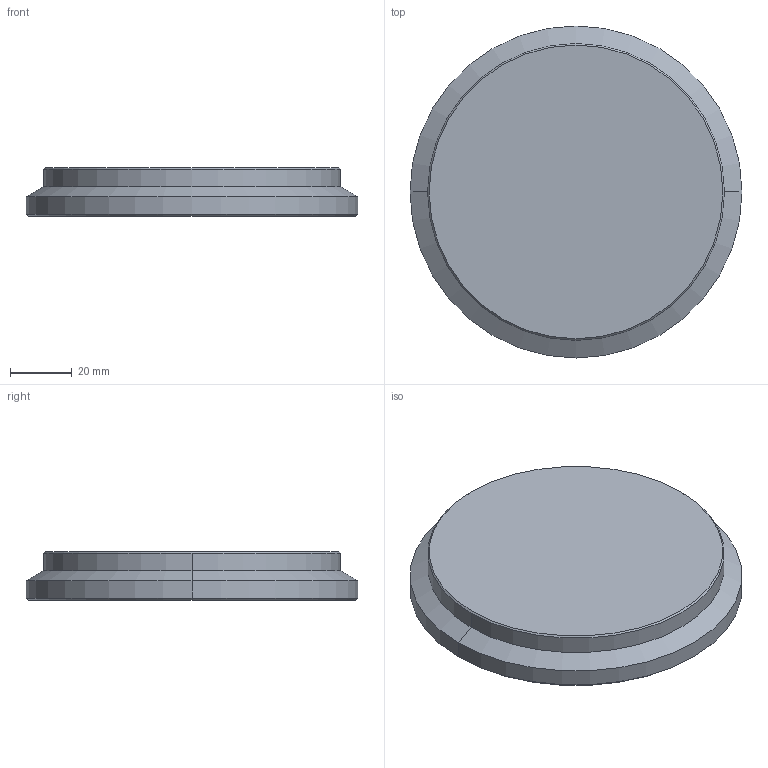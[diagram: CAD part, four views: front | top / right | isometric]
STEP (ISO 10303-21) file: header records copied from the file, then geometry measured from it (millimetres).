
FILE_DESCRIPTION((''),'2;1');
FILE_NAME('RMC-6003','2007-09-24T',('glafferty'),('Pleasant Precision, Inc. (419)675-0556'),'PRO/ENGINEER BY PARAMETRIC TECHNOLOGY CORPORATION, 2006080','PRO/ENGINEER BY PARAMETRIC TECHNOLOGY CORPORATION, 2006080','');
FILE_SCHEMA(('CONFIG_CONTROL_DESIGN'));
Length unit declared in the file: inch
Products named in the file (1): RMC-6003
Bounding box: 107.95 x 107.95 x 15.88 mm (x, y, z)
Volume: 130242 mm3; surface area: 22410 mm2
Topology: 1 solids, 1 shells, 15 faces, 28 edges, 16 vertices
Faces by surface type: cone 6, cylinder 6, plane 3
Entity records: 414 total; most frequent: DIRECTION 74, CARTESIAN_POINT 59, ORIENTED_EDGE 56, AXIS2_PLACEMENT_3D 31, EDGE_CURVE 28, VERTEX_POINT 16, EDGE_LOOP 16, CIRCLE 16
